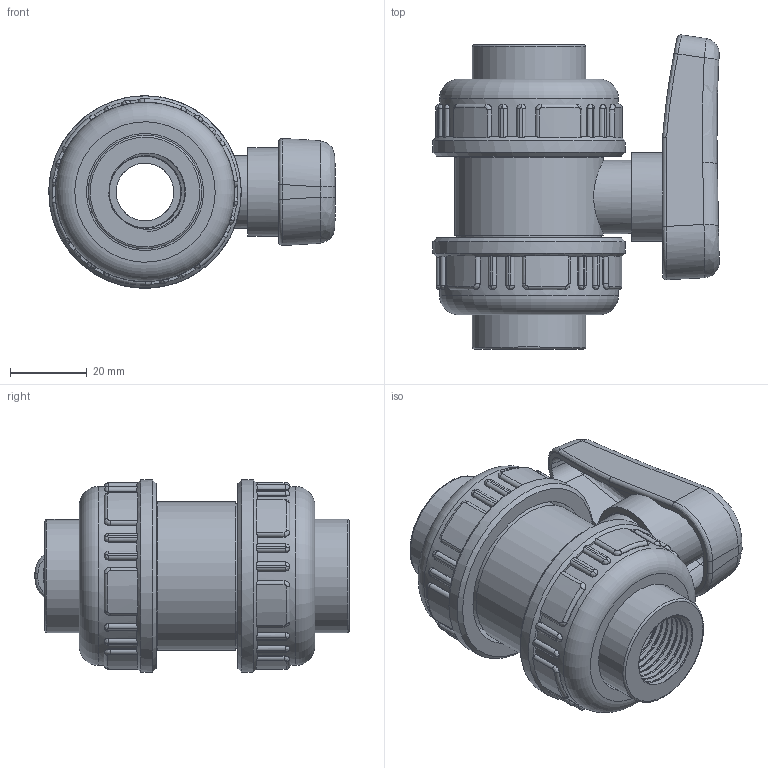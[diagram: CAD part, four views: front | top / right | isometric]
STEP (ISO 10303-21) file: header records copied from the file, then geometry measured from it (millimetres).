
FILE_DESCRIPTION(/* description */ (''),/* implementation_level */ '2;1');
FILE_NAME(/* name */ 'C:\Users\POLYPIPE\Desktop\DATASET INVENTOR\LIBRERIA EFFAST\3D_VALVOLE\3D_VALVOLE A SFERA\3D_BV\3D_BERBVE\3D_BERBVE020B.stp',/* time_stamp */ '2018-01-24T09:33:19+01:00',/* author */ ('POLYPIPE'),/* organization */ (''),/* preprocessor_version */ 'ST-DEVELOPER v16.1',/* originating_system */ 'Autodesk Inventor 2016',/* authorisation */ '');
FILE_SCHEMA (('CONFIG_CONTROL_DESIGN'));
Length unit declared in the file: centimetre
Products named in the file (1): 3D_BERBVE020B
Bounding box: 74.42 x 81.61 x 50 mm (x, y, z)
Volume: 95018 mm3; surface area: 39722.8 mm2
Topology: 2 solids, 2 shells, 531 faces, 1374 edges, 864 vertices
Faces by surface type: plane 174, bspline 172, cylinder 165, torus 16, cone 4
Full cylindrical faces by diameter (mm): 12 x1, 15 x2, 18.1 x1, 18.631 x2, 19 x1, 23 x1, 25.6 x1, 28.8 x1, 29.5 x2, 30.4 x2, 35.5 x2, 37.5 x2, 38.6 x1, 40.4 x2, 46.5 x2, 50 x2
Entity records: 66614 total; most frequent: CARTESIAN_POINT 54111, ORIENTED_EDGE 2656, DIRECTION 2181, EDGE_CURVE 1328, VERTEX_POINT 851, AXIS2_PLACEMENT_3D 834, EDGE_LOOP 587, STYLED_ITEM 533
